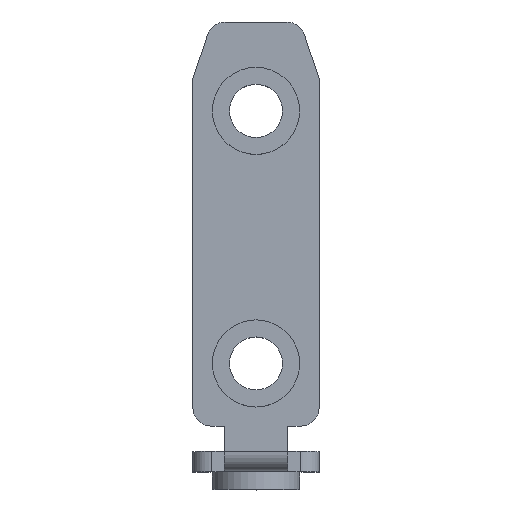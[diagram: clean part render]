
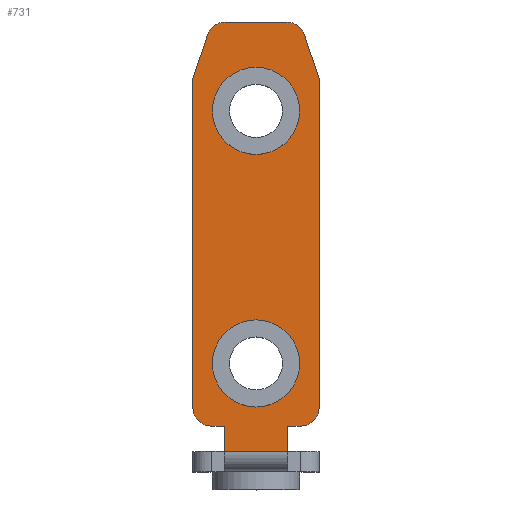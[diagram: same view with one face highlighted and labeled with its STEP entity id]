
A CAD part, top view. The second image highlights one B-rep face of the part: STEP entity #731.
In plain terms, the highlighted planar face has unit normal (0, 0, 1).
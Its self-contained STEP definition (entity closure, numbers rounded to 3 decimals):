
#15=FACE_BOUND('',#101,.T.);
#16=FACE_BOUND('',#102,.T.);
#27=PLANE('',#802);
#59=FACE_OUTER_BOUND('',#100,.T.);
#100=EDGE_LOOP('',(#528,#529,#530,#531,#532,#533,#534,#535,#536,#537,#538,
#539,#540,#541));
#101=EDGE_LOOP('',(#542));
#102=EDGE_LOOP('',(#543));
#153=LINE('',#1128,#224);
#154=LINE('',#1132,#225);
#155=LINE('',#1134,#226);
#156=LINE('',#1138,#227);
#157=LINE('',#1142,#228);
#158=LINE('',#1144,#229);
#159=LINE('',#1148,#230);
#160=LINE('',#1150,#231);
#161=LINE('',#1152,#232);
#162=LINE('',#1153,#233);
#224=VECTOR('',#913,1000.);
#225=VECTOR('',#916,1000.);
#226=VECTOR('',#917,1000.);
#227=VECTOR('',#920,1000.);
#228=VECTOR('',#923,1000.);
#229=VECTOR('',#924,1000.);
#230=VECTOR('',#927,1000.);
#231=VECTOR('',#928,1000.);
#232=VECTOR('',#929,1000.);
#233=VECTOR('',#930,1000.);
#299=CIRCLE('',#797,3.45);
#301=CIRCLE('',#800,3.45);
#303=CIRCLE('',#803,1.5);
#304=CIRCLE('',#804,1.5);
#305=CIRCLE('',#805,1.5);
#306=CIRCLE('',#806,1.5);
#333=VERTEX_POINT('',#1114);
#335=VERTEX_POINT('',#1120);
#337=VERTEX_POINT('',#1126);
#338=VERTEX_POINT('',#1127);
#339=VERTEX_POINT('',#1129);
#340=VERTEX_POINT('',#1131);
#341=VERTEX_POINT('',#1133);
#342=VERTEX_POINT('',#1135);
#343=VERTEX_POINT('',#1137);
#344=VERTEX_POINT('',#1139);
#345=VERTEX_POINT('',#1141);
#346=VERTEX_POINT('',#1143);
#347=VERTEX_POINT('',#1145);
#348=VERTEX_POINT('',#1147);
#349=VERTEX_POINT('',#1149);
#350=VERTEX_POINT('',#1151);
#409=EDGE_CURVE('',#333,#333,#299,.T.);
#412=EDGE_CURVE('',#335,#335,#301,.T.);
#415=EDGE_CURVE('',#337,#338,#153,.T.);
#416=EDGE_CURVE('',#338,#339,#303,.T.);
#417=EDGE_CURVE('',#339,#340,#154,.T.);
#418=EDGE_CURVE('',#340,#341,#155,.T.);
#419=EDGE_CURVE('',#341,#342,#304,.T.);
#420=EDGE_CURVE('',#342,#343,#156,.T.);
#421=EDGE_CURVE('',#343,#344,#305,.T.);
#422=EDGE_CURVE('',#344,#345,#157,.T.);
#423=EDGE_CURVE('',#345,#346,#158,.T.);
#424=EDGE_CURVE('',#346,#347,#306,.T.);
#425=EDGE_CURVE('',#347,#348,#159,.T.);
#426=EDGE_CURVE('',#348,#349,#160,.T.);
#427=EDGE_CURVE('',#349,#350,#161,.T.);
#428=EDGE_CURVE('',#350,#337,#162,.T.);
#528=ORIENTED_EDGE('',*,*,#415,.T.);
#529=ORIENTED_EDGE('',*,*,#416,.T.);
#530=ORIENTED_EDGE('',*,*,#417,.T.);
#531=ORIENTED_EDGE('',*,*,#418,.T.);
#532=ORIENTED_EDGE('',*,*,#419,.T.);
#533=ORIENTED_EDGE('',*,*,#420,.T.);
#534=ORIENTED_EDGE('',*,*,#421,.T.);
#535=ORIENTED_EDGE('',*,*,#422,.T.);
#536=ORIENTED_EDGE('',*,*,#423,.T.);
#537=ORIENTED_EDGE('',*,*,#424,.T.);
#538=ORIENTED_EDGE('',*,*,#425,.T.);
#539=ORIENTED_EDGE('',*,*,#426,.T.);
#540=ORIENTED_EDGE('',*,*,#427,.T.);
#541=ORIENTED_EDGE('',*,*,#428,.T.);
#542=ORIENTED_EDGE('',*,*,#409,.F.);
#543=ORIENTED_EDGE('',*,*,#412,.F.);
#731=ADVANCED_FACE('',(#59,#15,#16),#27,.F.);
#797=AXIS2_PLACEMENT_3D('',#1115,#899,#900);
#800=AXIS2_PLACEMENT_3D('',#1121,#906,#907);
#802=AXIS2_PLACEMENT_3D('',#1125,#911,#912);
#803=AXIS2_PLACEMENT_3D('',#1130,#914,#915);
#804=AXIS2_PLACEMENT_3D('',#1136,#918,#919);
#805=AXIS2_PLACEMENT_3D('',#1140,#921,#922);
#806=AXIS2_PLACEMENT_3D('',#1146,#925,#926);
#899=DIRECTION('center_axis',(0.,0.,1.));
#900=DIRECTION('ref_axis',(-1.,0.,0.));
#906=DIRECTION('center_axis',(0.,0.,1.));
#907=DIRECTION('ref_axis',(-1.,0.,0.));
#911=DIRECTION('center_axis',(0.,0.,-1.));
#912=DIRECTION('ref_axis',(-1.,0.,0.));
#913=DIRECTION('',(1.,0.,0.));
#914=DIRECTION('center_axis',(0.,0.,1.));
#915=DIRECTION('ref_axis',(-1.,0.,0.));
#916=DIRECTION('',(0.,1.,0.));
#917=DIRECTION('',(-0.316,0.949,0.));
#918=DIRECTION('center_axis',(0.,0.,1.));
#919=DIRECTION('ref_axis',(1.,0.,0.));
#920=DIRECTION('',(-1.,0.,0.));
#921=DIRECTION('center_axis',(0.,0.,1.));
#922=DIRECTION('ref_axis',(-1.,0.,0.));
#923=DIRECTION('',(-0.316,-0.949,0.));
#924=DIRECTION('',(0.,-1.,0.));
#925=DIRECTION('center_axis',(0.,0.,1.));
#926=DIRECTION('ref_axis',(-1.,0.,0.));
#927=DIRECTION('',(1.,0.,0.));
#928=DIRECTION('',(0.,-1.,0.));
#929=DIRECTION('',(1.,0.,0.));
#930=DIRECTION('',(0.,1.,0.));
#1114=CARTESIAN_POINT('',(3.45,26.96,1.6));
#1115=CARTESIAN_POINT('Origin',(0.,26.96,1.6));
#1120=CARTESIAN_POINT('',(3.45,6.96,1.6));
#1121=CARTESIAN_POINT('Origin',(0.,6.96,1.6));
#1125=CARTESIAN_POINT('Origin',(-3.5,3.5,1.6));
#1126=CARTESIAN_POINT('',(2.5,2.,1.6));
#1127=CARTESIAN_POINT('',(3.5,2.,1.6));
#1128=CARTESIAN_POINT('',(3.5,2.,1.6));
#1129=CARTESIAN_POINT('',(5.,3.5,1.6));
#1130=CARTESIAN_POINT('Origin',(3.5,3.5,1.6));
#1131=CARTESIAN_POINT('',(5.,29.5,1.6));
#1132=CARTESIAN_POINT('',(5.,3.5,1.6));
#1133=CARTESIAN_POINT('',(3.842,32.974,1.6));
#1134=CARTESIAN_POINT('',(5.,29.5,1.6));
#1135=CARTESIAN_POINT('',(2.419,34.,1.6));
#1136=CARTESIAN_POINT('Origin',(2.419,32.5,1.6));
#1137=CARTESIAN_POINT('',(-2.419,34.,1.6));
#1138=CARTESIAN_POINT('',(-2.419,34.,1.6));
#1139=CARTESIAN_POINT('',(-3.842,32.974,1.6));
#1140=CARTESIAN_POINT('Origin',(-2.419,32.5,1.6));
#1141=CARTESIAN_POINT('',(-5.,29.5,1.6));
#1142=CARTESIAN_POINT('',(-5.,29.5,1.6));
#1143=CARTESIAN_POINT('',(-5.,3.5,1.6));
#1144=CARTESIAN_POINT('',(-5.,3.5,1.6));
#1145=CARTESIAN_POINT('',(-3.5,2.,1.6));
#1146=CARTESIAN_POINT('Origin',(-3.5,3.5,1.6));
#1147=CARTESIAN_POINT('',(-2.5,2.,1.6));
#1148=CARTESIAN_POINT('',(-3.5,2.,1.6));
#1149=CARTESIAN_POINT('',(-2.5,0.,1.6));
#1150=CARTESIAN_POINT('',(-2.5,2.,1.6));
#1151=CARTESIAN_POINT('',(2.5,0.,1.6));
#1152=CARTESIAN_POINT('',(-2.5,0.,1.6));
#1153=CARTESIAN_POINT('',(2.5,2.,1.6));
